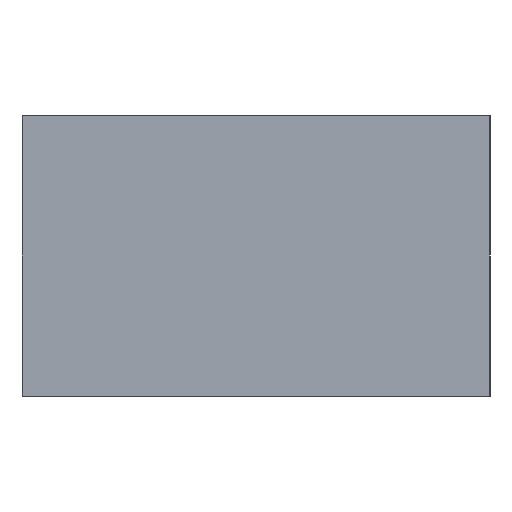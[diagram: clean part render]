
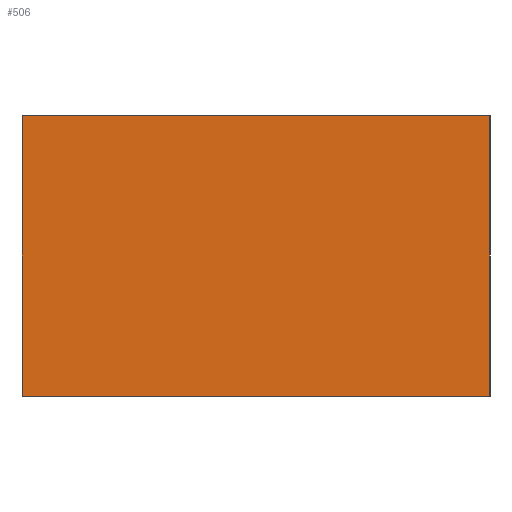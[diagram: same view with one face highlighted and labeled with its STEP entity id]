
A CAD part, left-side view. The second image highlights one B-rep face of the part: STEP entity #506.
In plain terms, the highlighted planar face has unit normal (-1, 0, 0).
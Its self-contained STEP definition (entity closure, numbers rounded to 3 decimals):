
#111 = VERTEX_POINT ( 'NONE', #1599 ) ;
#137 = DIRECTION ( 'NONE',  ( 0., 0., 1. ) ) ;
#269 = VERTEX_POINT ( 'NONE', #566 ) ;
#349 = FACE_OUTER_BOUND ( 'NONE', #1140, .T. ) ;
#506 = ADVANCED_FACE ( 'NONE', ( #349 ), #644, .F. ) ;
#566 = CARTESIAN_POINT ( 'NONE',  ( 0., -10., 6. ) ) ;
#610 = VERTEX_POINT ( 'NONE', #1293 ) ;
#644 = PLANE ( 'NONE',  #1257 ) ;
#662 = CARTESIAN_POINT ( 'NONE',  ( 0., 0., 0. ) ) ;
#688 = CARTESIAN_POINT ( 'NONE',  ( 0., 0., 6. ) ) ;
#710 = CARTESIAN_POINT ( 'NONE',  ( 0., 0., 6. ) ) ;
#811 = VECTOR ( 'NONE', #1219, 1000. ) ;
#847 = LINE ( 'NONE', #978, #1560 ) ;
#945 = EDGE_CURVE ( 'NONE', #111, #269, #1725, .T. ) ;
#974 = LINE ( 'NONE', #688, #1531 ) ;
#978 = CARTESIAN_POINT ( 'NONE',  ( 0., -10., 6. ) ) ;
#1020 = VERTEX_POINT ( 'NONE', #1761 ) ;
#1029 = ORIENTED_EDGE ( 'NONE', *, *, #945, .F. ) ;
#1099 = EDGE_CURVE ( 'NONE', #1020, #610, #1406, .T. ) ;
#1136 = DIRECTION ( 'NONE',  ( 0., -1., 0. ) ) ;
#1140 = EDGE_LOOP ( 'NONE', ( #1289, #1029, #1196, #1155 ) ) ;
#1155 = ORIENTED_EDGE ( 'NONE', *, *, #1099, .T. ) ;
#1196 = ORIENTED_EDGE ( 'NONE', *, *, #1791, .F. ) ;
#1212 = DIRECTION ( 'NONE',  ( 0., 1., 0. ) ) ;
#1219 = DIRECTION ( 'NONE',  ( 0., -1., 0. ) ) ;
#1257 = AXIS2_PLACEMENT_3D ( 'NONE', #1789, #1635, #1212 ) ;
#1279 = EDGE_CURVE ( 'NONE', #610, #269, #847, .T. ) ;
#1289 = ORIENTED_EDGE ( 'NONE', *, *, #1279, .T. ) ;
#1293 = CARTESIAN_POINT ( 'NONE',  ( 0., -10., 0. ) ) ;
#1406 = LINE ( 'NONE', #662, #811 ) ;
#1531 = VECTOR ( 'NONE', #1546, 1000. ) ;
#1546 = DIRECTION ( 'NONE',  ( 0., 0., 1. ) ) ;
#1560 = VECTOR ( 'NONE', #137, 1000. ) ;
#1599 = CARTESIAN_POINT ( 'NONE',  ( 0., 0., 6. ) ) ;
#1635 = DIRECTION ( 'NONE',  ( 1., 0., 0. ) ) ;
#1650 = VECTOR ( 'NONE', #1136, 1000. ) ;
#1725 = LINE ( 'NONE', #710, #1650 ) ;
#1761 = CARTESIAN_POINT ( 'NONE',  ( 0., 0., 0. ) ) ;
#1789 = CARTESIAN_POINT ( 'NONE',  ( 0., 0., 6. ) ) ;
#1791 = EDGE_CURVE ( 'NONE', #1020, #111, #974, .T. ) ;
